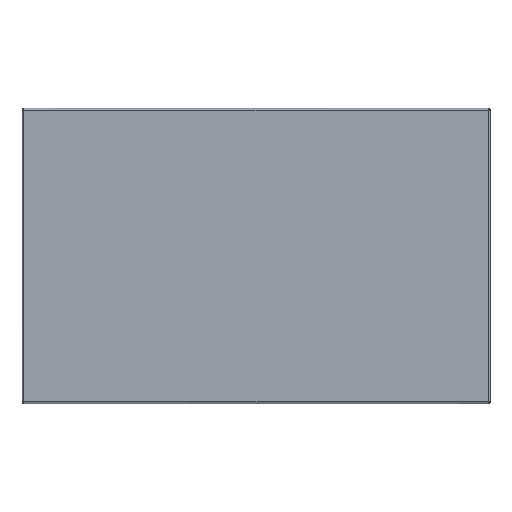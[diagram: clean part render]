
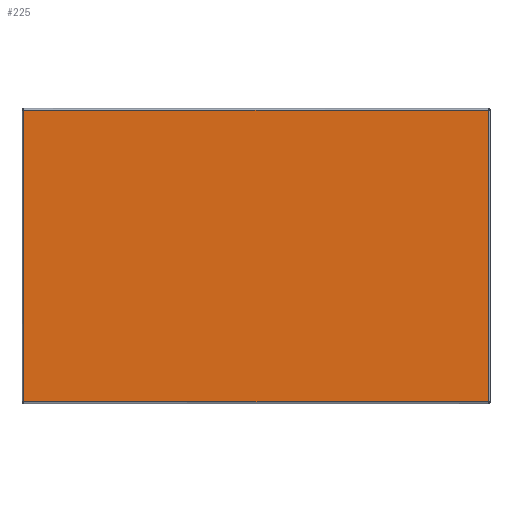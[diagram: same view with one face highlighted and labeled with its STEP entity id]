
A CAD part, front view. The second image highlights one B-rep face of the part: STEP entity #225.
In plain terms, the highlighted planar face has unit normal (0, -1, 0).
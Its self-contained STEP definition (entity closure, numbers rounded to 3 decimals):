
#31 = CARTESIAN_POINT ( 'NONE',  ( 393.5, 0., 0. ) ) ;
#112 = ORIENTED_EDGE ( 'NONE', *, *, #4562, .F. ) ;
#225 = ADVANCED_FACE ( 'NONE', ( #2488 ), #1373, .F. ) ;
#305 = CARTESIAN_POINT ( 'NONE',  ( -393.5, 0., -247. ) ) ;
#421 = ORIENTED_EDGE ( 'NONE', *, *, #5166, .F. ) ;
#478 = CARTESIAN_POINT ( 'NONE',  ( 0., 0., 0. ) ) ;
#508 = DIRECTION ( 'NONE',  ( 0., 0., -1. ) ) ;
#775 = DIRECTION ( 'NONE',  ( 1., 0., 0. ) ) ;
#849 = ORIENTED_EDGE ( 'NONE', *, *, #4761, .F. ) ;
#1070 = VERTEX_POINT ( 'NONE', #3694 ) ;
#1135 = DIRECTION ( 'NONE',  ( -1., 0., 0. ) ) ;
#1373 = PLANE ( 'NONE',  #4601 ) ;
#1680 = LINE ( 'NONE', #3605, #1750 ) ;
#1750 = VECTOR ( 'NONE', #775, 1000. ) ;
#1831 = DIRECTION ( 'NONE',  ( 0., 1., 0. ) ) ;
#1903 = VERTEX_POINT ( 'NONE', #305 ) ;
#2323 = LINE ( 'NONE', #3193, #2357 ) ;
#2357 = VECTOR ( 'NONE', #4618, 1000. ) ;
#2488 = FACE_OUTER_BOUND ( 'NONE', #3535, .T. ) ;
#2598 = ORIENTED_EDGE ( 'NONE', *, *, #4358, .F. ) ;
#2711 = DIRECTION ( 'NONE',  ( 0., 0., 1. ) ) ;
#2778 = LINE ( 'NONE', #4423, #2784 ) ;
#2784 = VECTOR ( 'NONE', #1135, 1000. ) ;
#3063 = LINE ( 'NONE', #31, #3086 ) ;
#3086 = VECTOR ( 'NONE', #508, 1000. ) ;
#3193 = CARTESIAN_POINT ( 'NONE',  ( -393.5, 0., 0. ) ) ;
#3535 = EDGE_LOOP ( 'NONE', ( #849, #112, #2598, #421 ) ) ;
#3605 = CARTESIAN_POINT ( 'NONE',  ( 0., 0., 247. ) ) ;
#3654 = CARTESIAN_POINT ( 'NONE',  ( 393.5, 0., -247. ) ) ;
#3694 = CARTESIAN_POINT ( 'NONE',  ( 393.5, 0., 247. ) ) ;
#4358 = EDGE_CURVE ( 'NONE', #1070, #5281, #3063, .T. ) ;
#4423 = CARTESIAN_POINT ( 'NONE',  ( 0., 0., -247. ) ) ;
#4562 = EDGE_CURVE ( 'NONE', #5281, #1903, #2778, .T. ) ;
#4575 = CARTESIAN_POINT ( 'NONE',  ( -393.5, 0., 247. ) ) ;
#4601 = AXIS2_PLACEMENT_3D ( 'NONE', #478, #1831, #2711 ) ;
#4618 = DIRECTION ( 'NONE',  ( 0., 0., 1. ) ) ;
#4671 = VERTEX_POINT ( 'NONE', #4575 ) ;
#4761 = EDGE_CURVE ( 'NONE', #1903, #4671, #2323, .T. ) ;
#5166 = EDGE_CURVE ( 'NONE', #4671, #1070, #1680, .T. ) ;
#5281 = VERTEX_POINT ( 'NONE', #3654 ) ;
